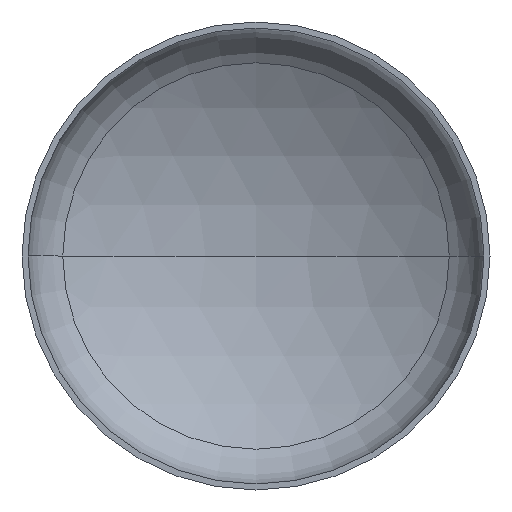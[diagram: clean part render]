
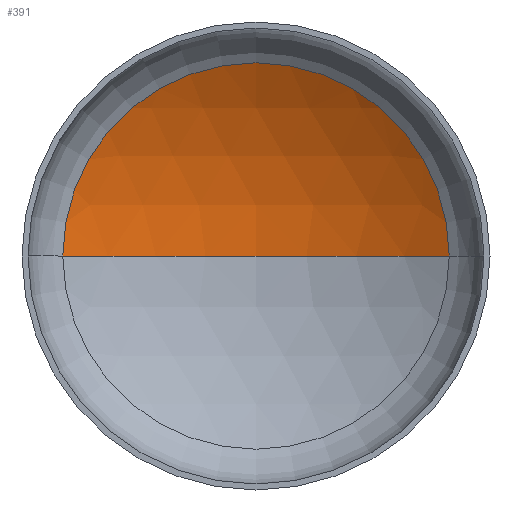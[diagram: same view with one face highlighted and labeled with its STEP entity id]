
A CAD part, front view. The second image highlights one B-rep face of the part: STEP entity #391.
In plain terms, the highlighted spherical face has radius 1120 mm.
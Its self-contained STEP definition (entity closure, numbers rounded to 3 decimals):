
#14 = AXIS2_PLACEMENT_3D ( 'NONE', #397, #224, #15 ) ;
#15 = DIRECTION ( 'NONE',  ( 1., 0., 0. ) ) ;
#17 = AXIS2_PLACEMENT_3D ( 'NONE', #80, #83, #235 ) ;
#20 = AXIS2_PLACEMENT_3D ( 'NONE', #108, #288, #112 ) ;
#32 = SPHERICAL_SURFACE ( 'NONE', #208, 1120. ) ;
#53 = FACE_OUTER_BOUND ( 'NONE', #325, .T. ) ;
#80 = CARTESIAN_POINT ( 'NONE',  ( 0., -720.201, 0. ) ) ;
#82 = CIRCLE ( 'NONE', #20, 577.945 ) ;
#83 = DIRECTION ( 'NONE',  ( 0., 0., -1. ) ) ;
#87 = DIRECTION ( 'NONE',  ( -1., 0., 0. ) ) ;
#95 = VERTEX_POINT ( 'NONE', #137 ) ;
#108 = CARTESIAN_POINT ( 'NONE',  ( 0., 239.164, 0. ) ) ;
#112 = DIRECTION ( 'NONE',  ( 1., 0., 0. ) ) ;
#131 = VERTEX_POINT ( 'NONE', #332 ) ;
#137 = CARTESIAN_POINT ( 'NONE',  ( -577.945, 239.164, 0. ) ) ;
#207 = ORIENTED_EDGE ( 'NONE', *, *, #338, .T. ) ;
#208 = AXIS2_PLACEMENT_3D ( 'NONE', #377, #298, #87 ) ;
#224 = DIRECTION ( 'NONE',  ( 0., 0., 1. ) ) ;
#227 = CIRCLE ( 'NONE', #17, 1120. ) ;
#235 = DIRECTION ( 'NONE',  ( -1., 0., 0. ) ) ;
#241 = CARTESIAN_POINT ( 'NONE',  ( 577.945, 239.164, 0. ) ) ;
#252 = VERTEX_POINT ( 'NONE', #241 ) ;
#273 = ORIENTED_EDGE ( 'NONE', *, *, #334, .T. ) ;
#288 = DIRECTION ( 'NONE',  ( 0., -1., 0. ) ) ;
#298 = DIRECTION ( 'NONE',  ( 0., 0., -1. ) ) ;
#325 = EDGE_LOOP ( 'NONE', ( #386, #207, #273 ) ) ;
#332 = CARTESIAN_POINT ( 'NONE',  ( 0., 399.799, 0. ) ) ;
#334 = EDGE_CURVE ( 'NONE', #252, #95, #82, .T. ) ;
#338 = EDGE_CURVE ( 'NONE', #131, #252, #227, .T. ) ;
#342 = EDGE_CURVE ( 'NONE', #131, #95, #374, .T. ) ;
#374 = CIRCLE ( 'NONE', #14, 1120. ) ;
#377 = CARTESIAN_POINT ( 'NONE',  ( 0., -720.201, 0. ) ) ;
#386 = ORIENTED_EDGE ( 'NONE', *, *, #342, .F. ) ;
#391 = ADVANCED_FACE ( 'NONE', ( #53 ), #32, .F. ) ;
#397 = CARTESIAN_POINT ( 'NONE',  ( 0., -720.201, 0. ) ) ;
